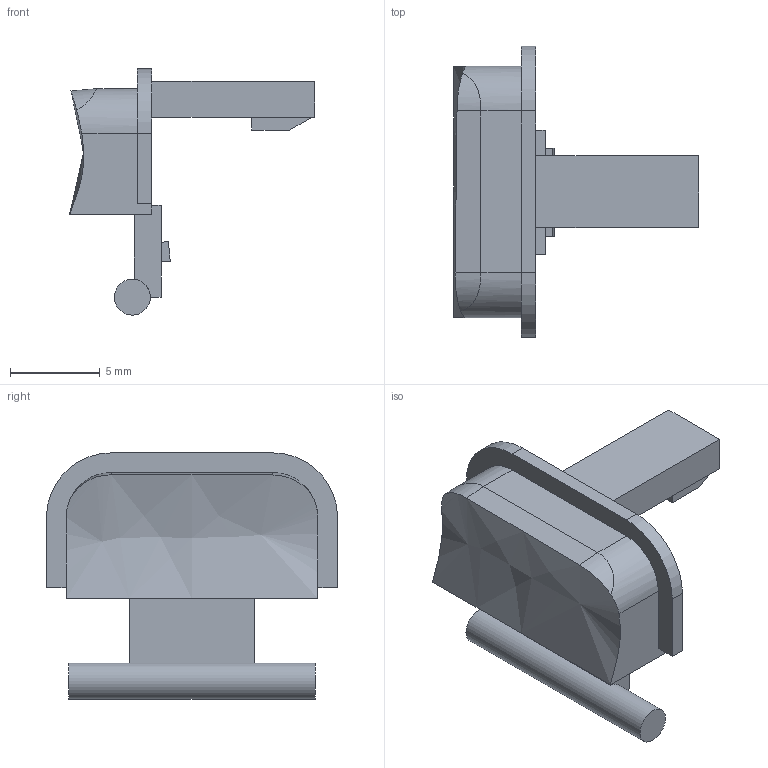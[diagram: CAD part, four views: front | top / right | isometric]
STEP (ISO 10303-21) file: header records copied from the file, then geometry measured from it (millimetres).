
FILE_DESCRIPTION(('Open CASCADE Model'),'2;1');
FILE_NAME('Open CASCADE Shape Model','2026-11-26T01:43:35',('Author'),( 'Open CASCADE'),'Open CASCADE STEP processor 7.9','build123d', 'Unknown');
FILE_SCHEMA(('AUTOMOTIVE_DESIGN { 1 0 10303 214 1 1 1 1 }'));
Products named in the file (1): SOLID
Bounding box: 13.64 x 16.2 x 13.7 mm (x, y, z)
Volume: 575.7 mm3; surface area: 701 mm2
Topology: 1 solids, 1 shells, 43 faces, 110 edges, 72 vertices
Faces by surface type: plane 35, cylinder 7, bspline 1
Full cylindrical faces by diameter (mm): 2 x1
Entity records: 41456 total; most frequent: CARTESIAN_POINT 39376, DIRECTION 330, ORIENTED_EDGE 220, PCURVE 220, DEFINITIONAL_REPRESENTATION 220, LINE 214, VECTOR 214, EDGE_CURVE 110
